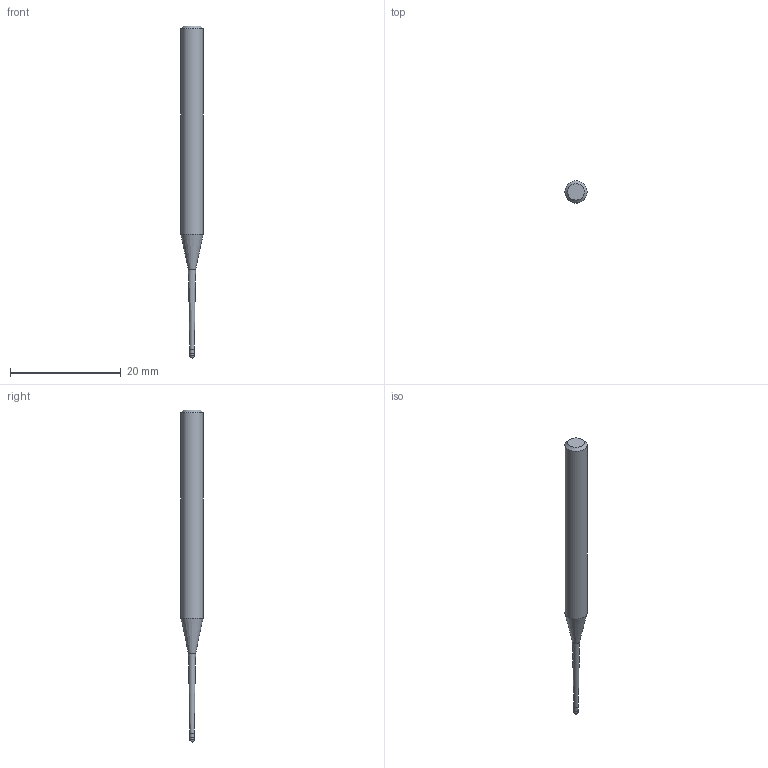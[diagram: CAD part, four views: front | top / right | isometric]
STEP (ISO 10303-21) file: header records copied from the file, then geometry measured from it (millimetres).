
FILE_DESCRIPTION((''),'2;1');
FILE_NAME('C:\Users\nsx150\AppData\Local\Temp\Mastercam 2021\SNAKH10GOD\TEMP.step','2021-10-21T13:31:53',(''),(''),'STEP Write','Mastercam 2021 ... CNC Software, Inc.','');
FILE_SCHEMA(('AUTOMOTIVE_DESIGN'));
Length unit declared in the file: millimetre
Products named in the file (1): None
Bounding box: 4 x 4 x 60 mm (x, y, z)
Volume: 523 mm3; surface area: 587.9 mm2
Topology: 2 solids, 2 shells, 10 faces, 16 edges, 9 vertices
Faces by surface type: plane 3, cylinder 3, cone 3, sphere 1
Full cylindrical faces by diameter (mm): 0.785 x1, 0.8 x1, 4 x1
Entity records: 232 total; most frequent: DIRECTION 40, CARTESIAN_POINT 28, AXIS2_PLACEMENT_3D 20, ORIENTED_EDGE 16, EDGE_LOOP 16, STYLED_ITEM 13, ADVANCED_FACE 10, FACE_BOUND 9
